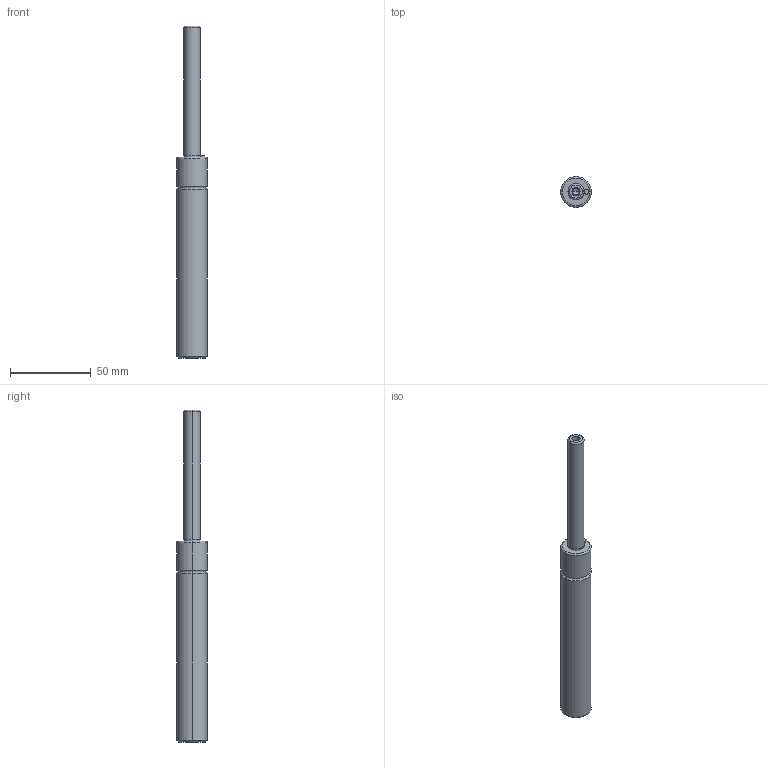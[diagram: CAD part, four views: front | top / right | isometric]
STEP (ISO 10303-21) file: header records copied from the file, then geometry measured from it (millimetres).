
FILE_DESCRIPTION(/* description */ (''),/* implementation_level */ '2;1');
FILE_NAME(/* name */ '3d_mgsa19-80_04555_r00.stp',/* time_stamp */ '2011-01-10T14:13:36+09:00',/* author */ ('MISUMI'),/* organization */ (''),/* preprocessor_version */ 'ST-DEVELOPER v11',/* originating_system */ 'UGS - NX 5.0',/* authorisation */ '');
FILE_SCHEMA (('CONFIG_CONTROL_DESIGN'));
Length unit declared in the file: millimetre
Products named in the file (1): 3d_mgsa19-80_04555_r00
Bounding box: 19 x 19 x 205 mm (x, y, z)
Volume: 40999.9 mm3; surface area: 10788.1 mm2
Topology: 1 solids, 1 shells, 36 faces, 74 edges, 42 vertices
Faces by surface type: cylinder 18, torus 6, cone 6, plane 6
Entity records: 1014 total; most frequent: DIRECTION 190, CARTESIAN_POINT 149, ORIENTED_EDGE 140, AXIS2_PLACEMENT_3D 83, EDGE_CURVE 70, CIRCLE 46, EDGE_LOOP 42, VERTEX_POINT 42
